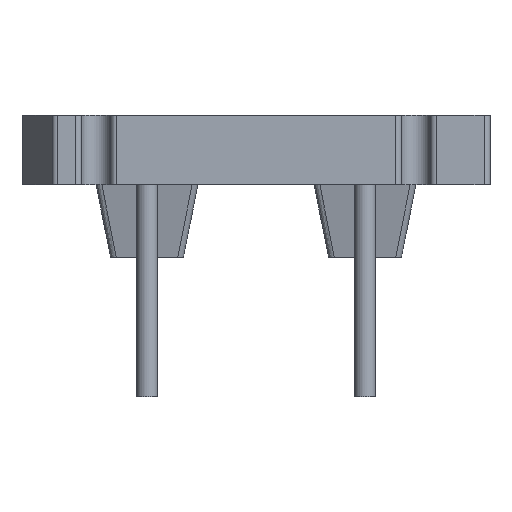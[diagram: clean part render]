
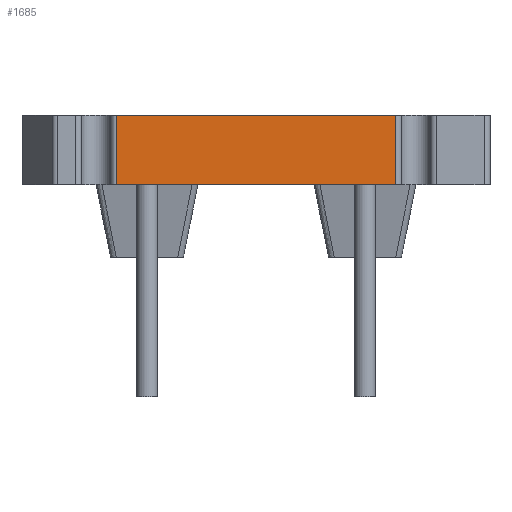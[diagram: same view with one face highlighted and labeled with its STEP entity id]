
A CAD part, front view. The second image highlights one B-rep face of the part: STEP entity #1685.
In plain terms, the highlighted planar face has unit normal (0, -1, 0).
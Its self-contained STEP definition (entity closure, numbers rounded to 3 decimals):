
#422 = VERTEX_POINT('',#423);
#423 = CARTESIAN_POINT('',(-4.8,-6.45,0.));
#430 = EDGE_CURVE('',#422,#431,#433,.T.);
#431 = VERTEX_POINT('',#432);
#432 = CARTESIAN_POINT('',(4.8,-6.45,0.));
#433 = LINE('',#434,#435);
#434 = CARTESIAN_POINT('',(-5.,-6.45,0.));
#435 = VECTOR('',#436,1.);
#436 = DIRECTION('',(1.,0.,0.));
#1641 = EDGE_CURVE('',#422,#1642,#1644,.T.);
#1642 = VERTEX_POINT('',#1643);
#1643 = CARTESIAN_POINT('',(-4.8,-6.45,2.4));
#1644 = LINE('',#1645,#1646);
#1645 = CARTESIAN_POINT('',(-4.8,-6.45,0.));
#1646 = VECTOR('',#1647,1.);
#1647 = DIRECTION('',(0.,0.,1.));
#1685 = ADVANCED_FACE('',(#1686),#1704,.F.);
#1686 = FACE_BOUND('',#1687,.F.);
#1687 = EDGE_LOOP('',(#1688,#1689,#1690,#1698));
#1688 = ORIENTED_EDGE('',*,*,#430,.F.);
#1689 = ORIENTED_EDGE('',*,*,#1641,.T.);
#1690 = ORIENTED_EDGE('',*,*,#1691,.T.);
#1691 = EDGE_CURVE('',#1642,#1692,#1694,.T.);
#1692 = VERTEX_POINT('',#1693);
#1693 = CARTESIAN_POINT('',(4.8,-6.45,2.4));
#1694 = LINE('',#1695,#1696);
#1695 = CARTESIAN_POINT('',(-5.,-6.45,2.4));
#1696 = VECTOR('',#1697,1.);
#1697 = DIRECTION('',(1.,0.,0.));
#1698 = ORIENTED_EDGE('',*,*,#1699,.F.);
#1699 = EDGE_CURVE('',#431,#1692,#1700,.T.);
#1700 = LINE('',#1701,#1702);
#1701 = CARTESIAN_POINT('',(4.8,-6.45,0.));
#1702 = VECTOR('',#1703,1.);
#1703 = DIRECTION('',(0.,0.,1.));
#1704 = PLANE('',#1705);
#1705 = AXIS2_PLACEMENT_3D('',#1706,#1707,#1708);
#1706 = CARTESIAN_POINT('',(-5.,-6.45,0.));
#1707 = DIRECTION('',(0.,1.,0.));
#1708 = DIRECTION('',(1.,0.,0.));
